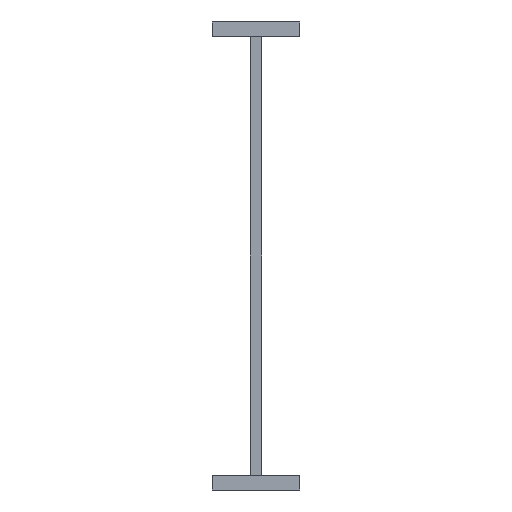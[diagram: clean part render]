
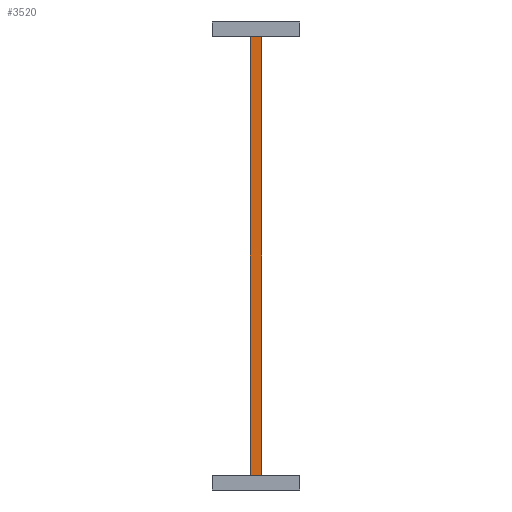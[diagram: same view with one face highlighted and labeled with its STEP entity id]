
A CAD part, left-side view. The second image highlights one B-rep face of the part: STEP entity #3520.
In plain terms, the highlighted planar face has unit normal (-1, 0, 0).
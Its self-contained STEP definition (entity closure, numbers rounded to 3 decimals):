
#60=CARTESIAN_POINT('',(0.,4.,0.));
#70=DIRECTION('',(0.,-1.,0.));
#80=VECTOR('',#70,1.);
#90=LINE('',#60,#80);
#100=CARTESIAN_POINT('',(0.,4.,0.));
#110=VERTEX_POINT('',#100);
#120=CARTESIAN_POINT('',(0.,0.,0.));
#130=VERTEX_POINT('',#120);
#140=EDGE_CURVE('',#110,#130,#90,.T.);
#520=CARTESIAN_POINT('',(0.,4.,150.));
#530=VERTEX_POINT('',#520);
#680=CARTESIAN_POINT('',(0.,0.,150.));
#690=VERTEX_POINT('',#680);
#720=CARTESIAN_POINT('',(0.,0.,150.));
#730=DIRECTION('',(0.,-1.,0.));
#740=VECTOR('',#730,1.);
#750=LINE('',#720,#740);
#760=EDGE_CURVE('',#530,#690,#750,.T.);
#1100=CARTESIAN_POINT('',(0.,4.,0.));
#1110=DIRECTION('',(0.,0.,1.));
#1120=VECTOR('',#1110,1.);
#1130=LINE('',#1100,#1120);
#1140=EDGE_CURVE('',#110,#530,#1130,.T.);
#3360=CARTESIAN_POINT('',(0.,0.,0.));
#3370=DIRECTION('',(-1.,0.,0.));
#3380=DIRECTION('',(0.,1.,0.));
#3390=AXIS2_PLACEMENT_3D('',#3360,#3370,#3380);
#3400=PLANE('',#3390);
#3410=ORIENTED_EDGE('',*,*,#1140,.F.);
#3420=ORIENTED_EDGE('',*,*,#760,.F.);
#3430=CARTESIAN_POINT('',(0.,0.,0.));
#3440=DIRECTION('',(0.,0.,1.));
#3450=VECTOR('',#3440,1.);
#3460=LINE('',#3430,#3450);
#3470=EDGE_CURVE('',#130,#690,#3460,.T.);
#3480=ORIENTED_EDGE('',*,*,#3470,.T.);
#3490=ORIENTED_EDGE('',*,*,#140,.T.);
#3500=EDGE_LOOP('',(#3490,#3480,#3420,#3410));
#3510=FACE_OUTER_BOUND('',#3500,.T.);
#3520=ADVANCED_FACE('',(#3510),#3400,.T.);
